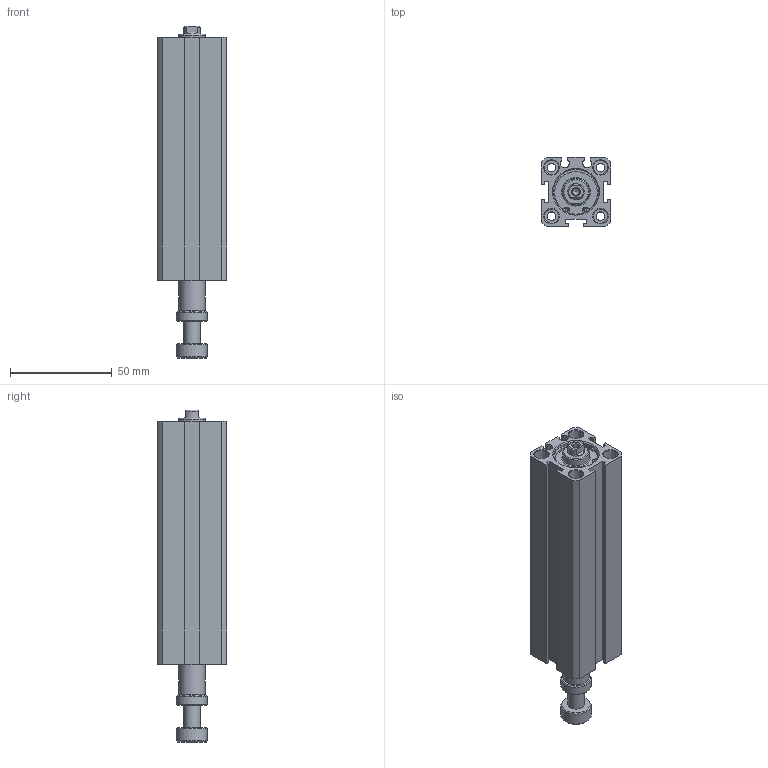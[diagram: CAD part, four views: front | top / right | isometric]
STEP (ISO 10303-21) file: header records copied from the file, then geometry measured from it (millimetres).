
FILE_DESCRIPTION((''),'2;1');
FILE_NAME('I:\3D電子目錄\氣缸\JDAR\JDAR\JDAR20\JDAR20x100.stp','2007-03-14T09:25:14',('662F206'),(''),'Autodesk Inventor 11','Autodesk Inventor 11','');
FILE_SCHEMA(('AUTOMOTIVE_DESIGN { 1 0 10303 214 1 1 1 1 }'));
Length unit declared in the file: millimetre
Products named in the file (3): JDAR20; R 形環 23
Assembly tree (3 placements, depth 2):
  JDAR20
    JDAR20
    R 形環 23  x2
Bounding box: 34 x 34 x 163.3 mm (x, y, z)
Volume: 116993.7 mm3; surface area: 35230.6 mm2
Topology: 3 solids, 3 shells, 148 faces, 336 edges, 218 vertices
Faces by surface type: plane 70, cylinder 49, cone 19, bspline 8, torus 2
Full cylindrical faces by diameter (mm): 1.5 x6, 4.3 x4, 7 x8, 8 x1, 13 x2, 15 x2, 22 x4, 23.2 x2
Entity records: 3721 total; most frequent: CARTESIAN_POINT 750, DIRECTION 626, ORIENTED_EDGE 494, AXIS2_PLACEMENT_3D 249, EDGE_CURVE 247, EDGE_LOOP 224, VERTEX_POINT 191, FACE_OUTER_BOUND 136
